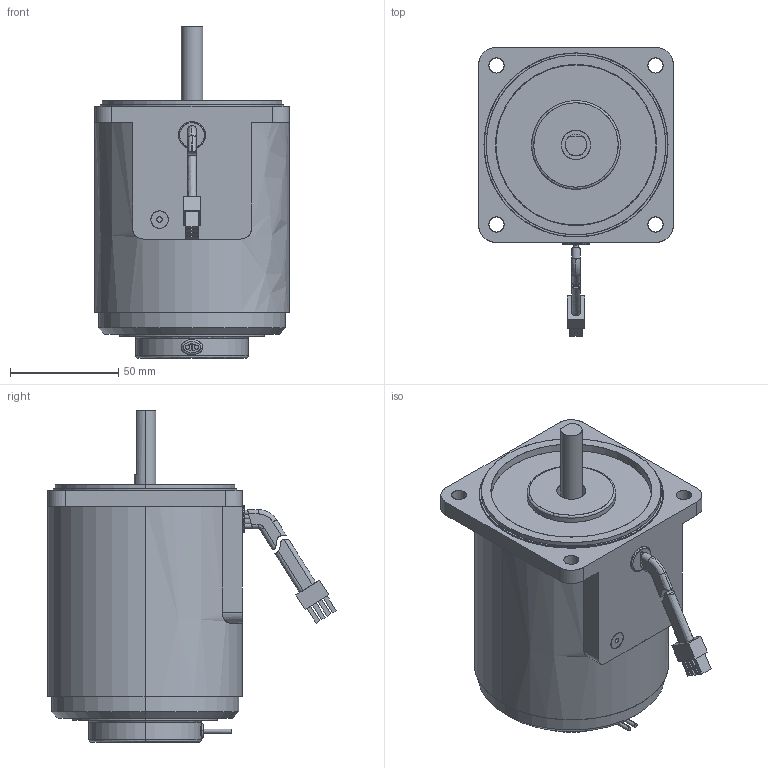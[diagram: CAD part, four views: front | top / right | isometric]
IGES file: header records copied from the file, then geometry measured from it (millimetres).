
Start section: SolidWorks IGES file using analytic representation for surfaces
Global section: file name: \\楷备家烹钦辑滚\data (D)\档搁 枚\权其捞瘤 档搁\7. SPEED INDUCTION\90\40W\(7-41) 9SDD∴-40.IGS; native system: SolidWorks 2007; preprocessor: SolidWorks 2007; author: user; date: 150703.131313; units: millimetre
Bounding box: 90 x 133.4 x 153.5 mm (x, y, z)
Surface area: 106913.1 mm2 (no closed solid volume)
Topology: 0 solids, 0 shells, 229 faces, 4543 edges, 4543 vertices
Faces by surface type: bspline 145, revolution 84
